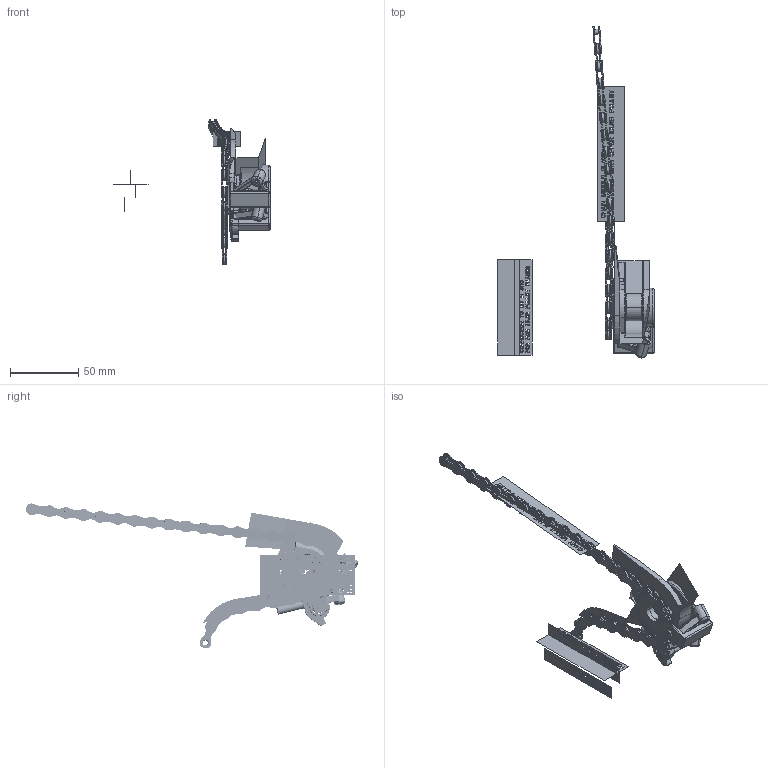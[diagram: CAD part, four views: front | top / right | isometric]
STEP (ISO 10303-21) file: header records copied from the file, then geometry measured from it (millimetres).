
FILE_DESCRIPTION((''),'2;1');
FILE_NAME('90-7518-190-000_ASM','2021-07-28T14:14:13',('hredecker'),('SRAM CORPORATION'),'CREO PARAMETRIC BY PTC INC, 2019080','CREO PARAMETRIC BY PTC INC, 2019080','');
FILE_SCHEMA(('CONFIG_CONTROL_DESIGN'));
Products named in the file (7): 90-7518-190-070_REV_G; 90-7518-190-080_REV_G; 90-7518-190-090_REV_G; 90-7518-190-110_REV_G; 00-7918-089-000_REV_G; 90-7518-190-050_REV_G; 90-7518-190-000_ASM
Assembly tree (7 placements, depth 2):
  90-7518-190-000_ASM
    90-7518-190-070_REV_G
    90-7518-190-080_REV_G  x2
    90-7518-190-090_REV_G
    90-7518-190-110_REV_G
    00-7918-089-000_REV_G
    90-7518-190-050_REV_G
Bounding box: 114.5 x 243.29 x 106.33 mm (x, y, z)
Volume: 65599.9 mm3; surface area: 67358.1 mm2
Topology: 6 solids, 224 shells, 4394 faces, 15798 edges, 11788 vertices
Faces by surface type: plane 2690, cylinder 1184, torus 270, bspline 187, cone 44, sphere 19
Entity records: 164021 total; most frequent: CARTESIAN_POINT 48154, ORIENTED_EDGE 23087, DIRECTION 22459, EDGE_CURVE 13795, VERTEX_POINT 10495, VECTOR 10197, LINE 10197, AXIS2_PLACEMENT_3D 6131
